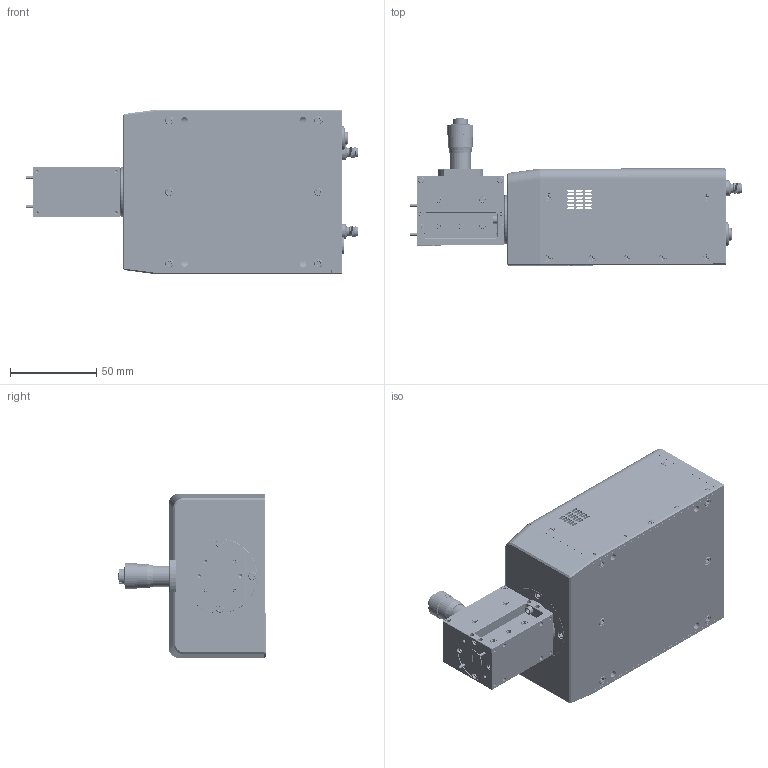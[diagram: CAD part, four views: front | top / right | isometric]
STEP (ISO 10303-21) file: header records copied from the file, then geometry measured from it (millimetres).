
FILE_DESCRIPTION (( 'STEP AP214' ), '1' );
FILE_NAME ('TO-RU-A Mountable.STEP', '2024-11-14T23:12:15', ( '' ), ( '' ), 'SwSTEP 2.0', 'SolidWorks 2021', '' );
FILE_SCHEMA (( 'AUTOMOTIVE_DESIGN' ));
Length unit declared in the file: inch
Products named in the file (1): TO-RU-A Mountable
Bounding box: 192.27 x 85.19 x 95.37 mm (x, y, z)
Volume: 290802.6 mm3; surface area: 152368.9 mm2
Topology: 96 solids, 98 shells, 6764 faces, 17976 edges, 11454 vertices
Faces by surface type: cylinder 3988, plane 1365, cone 1062, bspline 310, sphere 21, torus 18
Entity records: 423840 total; most frequent: CARTESIAN_POINT 187108, ORIENTED_EDGE 35546, DIRECTION 26339, EDGE_CURVE 17773, VERTEX_POINT 11448, AXIS2_PLACEMENT_3D 9769, EDGE_LOOP 7307, UNCERTAINTY_MEASURE_WITH_UNIT 6858
